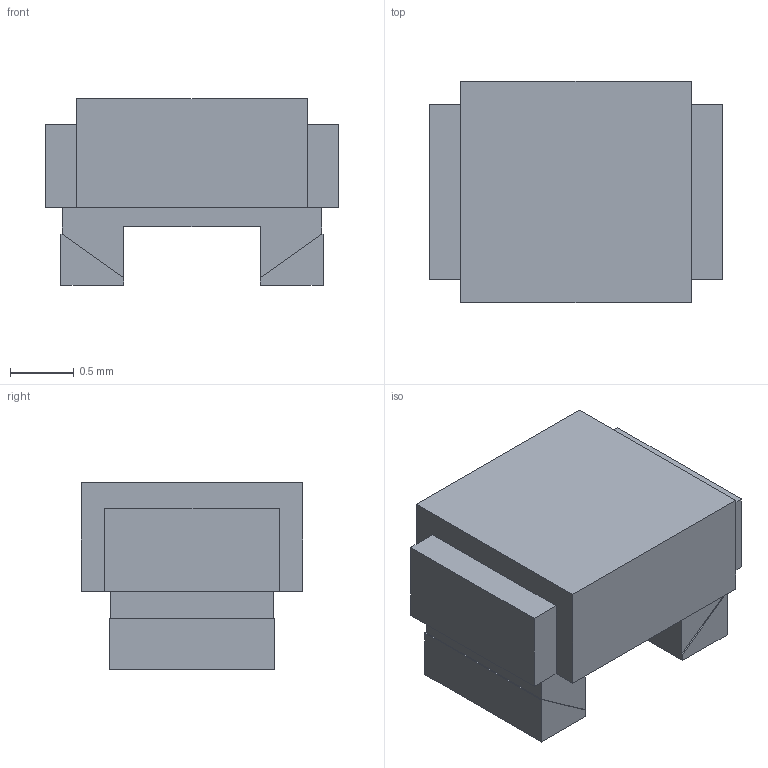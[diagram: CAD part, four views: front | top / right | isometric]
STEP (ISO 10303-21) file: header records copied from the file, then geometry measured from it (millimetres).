
FILE_DESCRIPTION(('STEP AP203'), '1');
FILE_NAME('ÊIF 2012 (0805)', '', ('UNSPECIFIED'), ('UNSPECIFIED'), 'ASCON STEP Converter 1.6', 'ASCON Math Kernel', '');
FILE_SCHEMA(('CONFIG_CONTROL_DESIGN'));
Length unit declared in the file: millimetre
Assembly tree (1 placements, depth 2):
  (unnamed)
    (unnamed)
Bounding box: 2.29 x 1.73 x 1.46 mm (x, y, z)
Volume: 4 mm3; surface area: 18.8 mm2
Topology: 1 solids, 2 shells, 54 faces, 143 edges, 94 vertices
Faces by surface type: plane 50, cylinder 4
Entity records: 2171 total; most frequent: CARTESIAN_POINT 293, ORIENTED_EDGE 286, DIRECTION 263, EDGE_CURVE 143, LINE 135, VECTOR 135, VERTEX_POINT 94, AXIS2_PLACEMENT_3D 64
